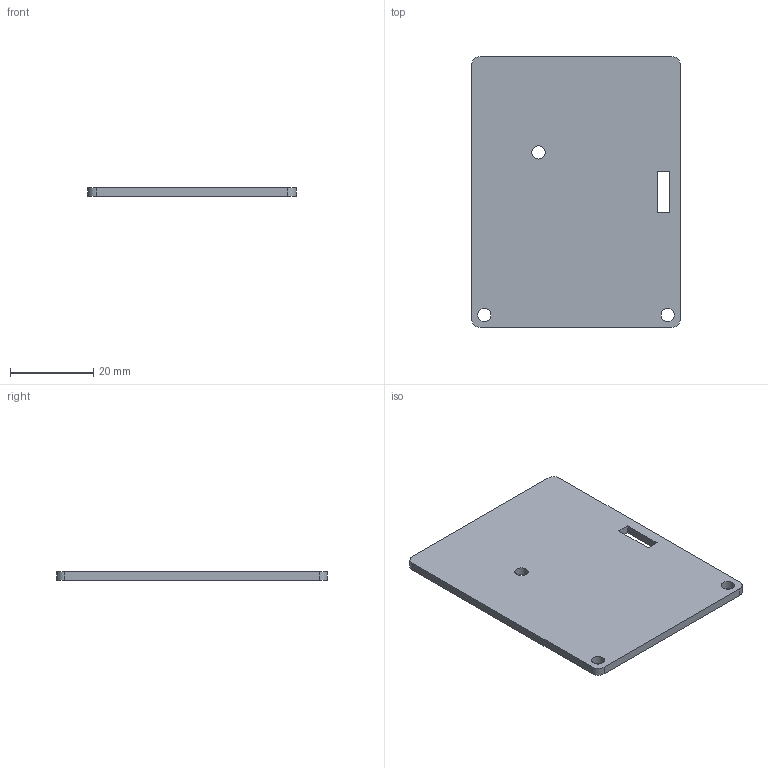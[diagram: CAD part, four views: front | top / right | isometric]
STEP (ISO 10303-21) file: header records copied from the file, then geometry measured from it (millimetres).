
FILE_DESCRIPTION(('Open CASCADE Model'),'2;1');
FILE_NAME('Open CASCADE Shape Model','2026-11-20T16:45:09',('Author'),( 'Open CASCADE'),'Open CASCADE STEP processor 7.9','Open CASCADE 7.9' ,'Unknown');
FILE_SCHEMA(('AUTOMOTIVE_DESIGN { 1 0 10303 214 1 1 1 1 }'));
Length unit declared in the file: millimetre
Products named in the file (1): Open CASCADE STEP translator 7.9 2
Bounding box: 50 x 65 x 2 mm (x, y, z)
Volume: 6384.9 mm3; surface area: 6950.3 mm2
Topology: 1 solids, 1 shells, 17 faces, 45 edges, 30 vertices
Faces by surface type: plane 10, cylinder 7
Full cylindrical faces by diameter (mm): 3.2 x3
Entity records: 1158 total; most frequent: CARTESIAN_POINT 259, DIRECTION 159, LINE 91, VECTOR 91, ORIENTED_EDGE 90, PCURVE 90, DEFINITIONAL_REPRESENTATION 90, EDGE_CURVE 45
